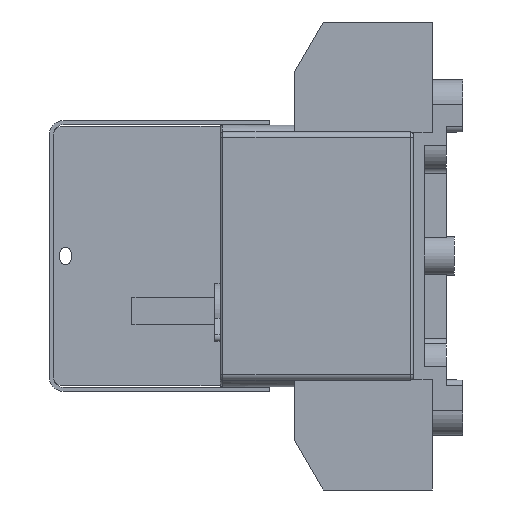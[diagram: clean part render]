
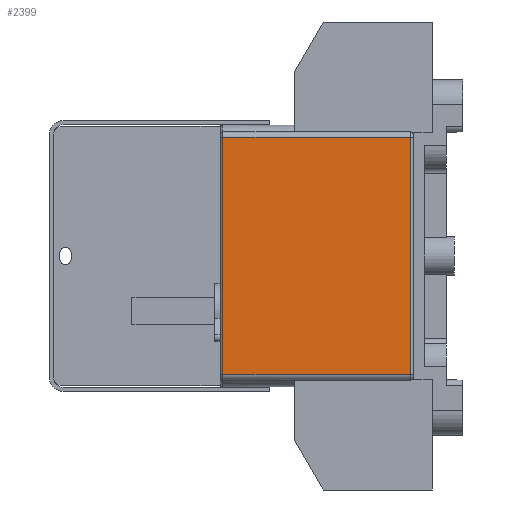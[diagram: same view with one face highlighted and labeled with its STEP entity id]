
A CAD part, left-side view. The second image highlights one B-rep face of the part: STEP entity #2399.
In plain terms, the highlighted planar face has unit normal (-1, 0, 0).
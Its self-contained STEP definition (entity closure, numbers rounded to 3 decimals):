
#2399=ADVANCED_FACE('',(#3860),#3014,.F.);
#3014=PLANE('',#20423);
#3860=FACE_OUTER_BOUND('',#5007,.T.);
#5007=EDGE_LOOP('',(#10056,#10057,#10058,#10059));
#10056=ORIENTED_EDGE('',*,*,#14879,.F.);
#10057=ORIENTED_EDGE('',*,*,#14864,.T.);
#10058=ORIENTED_EDGE('',*,*,#14880,.T.);
#10059=ORIENTED_EDGE('',*,*,#14561,.T.);
#12016=VERTEX_POINT('',#30520);
#12018=VERTEX_POINT('',#30526);
#12207=VERTEX_POINT('',#31220);
#12211=VERTEX_POINT('',#31252);
#14561=EDGE_CURVE('',#12016,#12018,#16653,.T.);
#14864=EDGE_CURVE('',#12207,#12211,#16806,.T.);
#14879=EDGE_CURVE('',#12207,#12018,#16813,.T.);
#14880=EDGE_CURVE('',#12211,#12016,#16814,.T.);
#16653=LINE('',#30527,#18585);
#16806=LINE('',#31253,#18738);
#16813=LINE('',#31306,#18745);
#16814=LINE('',#31308,#18746);
#18585=VECTOR('',#24982,1.);
#18738=VECTOR('',#25635,1.);
#18745=VECTOR('',#25662,1.);
#18746=VECTOR('',#25665,1.);
#20423=AXIS2_PLACEMENT_3D('',#31309,#25666,#25667);
#24982=DIRECTION('',(0.,0.,1.));
#25635=DIRECTION('',(0.,0.,-1.));
#25662=DIRECTION('',(0.,-1.,0.));
#25665=DIRECTION('',(0.,-1.,0.));
#25666=DIRECTION('',(1.,0.,0.));
#25667=DIRECTION('',(0.,0.,-1.));
#30520=CARTESIAN_POINT('',(-41.,1.,-43.));
#30526=CARTESIAN_POINT('',(-41.,1.,43.));
#30527=CARTESIAN_POINT('',(-41.,1.,-43.));
#31220=CARTESIAN_POINT('',(-41.,69.,43.));
#31252=CARTESIAN_POINT('',(-41.,69.,-43.));
#31253=CARTESIAN_POINT('',(-41.,69.,-43.));
#31306=CARTESIAN_POINT('',(-41.,35.,43.));
#31308=CARTESIAN_POINT('',(-41.,35.,-43.));
#31309=CARTESIAN_POINT('',(-41.,35.,-43.));
